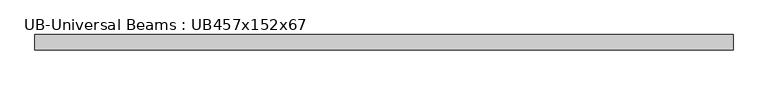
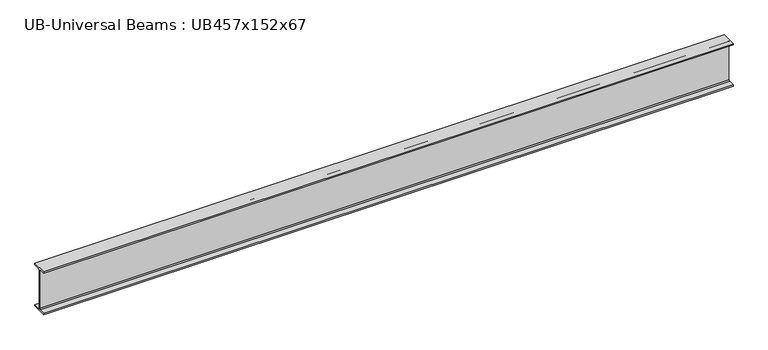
"""IFC4 building model written with IfcOpenShell, lengths in millimetres: beam geometry, UB-Universal Beams : UB457x152x67."""

from ifc_helpers import new_model, si_unit, point, frame, frame_2d, origin, place, context, project, spatial, polyline, circle_curve, trimmed, segment, composite_curve, outline, extrude, source, transform, mapped, element, save


def ub_universal_beams_ub457x152x67_6dce09a5(model_context):
    return source(origin(), model_context, "Body", "SweptSolid", [
        extrude(outline(composite_curve([segment(polyline([(76.9, -214.0), (76.9, -229.0), (-76.9, -229.0), (-76.9, -214.0), (-14.7, -214.0)]), True, "CONTINUOUS"), segment(trimmed(circle_curve(frame_2d((-14.7, -203.8)), 10.2), [point((-14.7, -214.0))], [point((-4.5, -203.8))], True, "CARTESIAN"), True, "CONTINUOUS"), segment(polyline([(-4.5, -203.8), (-4.5, 203.8)]), True, "CONTINUOUS"), segment(trimmed(circle_curve(frame_2d((-14.7, 203.8)), 10.2), [point((-4.5, 203.8))], [point((-14.7, 214.0))], True, "CARTESIAN"), True, "CONTINUOUS"), segment(polyline([(-14.7, 214.0), (-76.9, 214.0), (-76.9, 229.0), (76.9, 229.0), (76.9, 214.0), (14.7, 214.0)]), True, "CONTINUOUS"), segment(trimmed(circle_curve(frame_2d((14.7, 203.8)), 10.2), [point((14.7, 214.0))], [point((4.5, 203.8))], True, "CARTESIAN"), True, "CONTINUOUS"), segment(polyline([(4.5, 203.8), (4.5, -203.8)]), True, "CONTINUOUS"), segment(trimmed(circle_curve(frame_2d((14.7, -203.8)), 10.2), [point((4.5, -203.8))], [point((14.7, -214.0))], True, "CARTESIAN"), True, "CONTINUOUS"), segment(polyline([(14.7, -214.0), (76.9, -214.0)]), True, "CONTINUOUS")], self_intersect=False)), frame((-3400.0, 0.0, 0.0), z_axis=(1.0, 0.0, 0.0), x_axis=(0.0, 1.0, 0.0)), (0.0, 0.0, 1.0), 6997.4),
    ])


if __name__ == "__main__":
    model = new_model("IFC4")
    model_context = context("Model", 3, world=origin())
    ifc_project = project(units=[si_unit("LENGTHUNIT", "METRE", prefix="MILLI")], contexts=[model_context])
    site = spatial("IfcSite", under=ifc_project)
    building = spatial("IfcBuilding", under=site)
    placement = place(None, origin())
    ub_universal_beams_ub457x152x67_shape = ub_universal_beams_ub457x152x67_6dce09a5(model_context)
    element("IfcBeam", 1, ObjectType="UB-Universal Beams : UB457x152x67", at=placement, inside=building, context=model_context, shape_type="MappedRepresentation", body=[
        mapped(ub_universal_beams_ub457x152x67_shape, transform((0.0, 0.0, 0.0), x_axis=(1.0, 0.0, 0.0), y_axis=(0.0, 1.0, 0.0), z_axis=(0.0, 0.0, 1.0))),
    ])
    save(model, "model.ifc")
